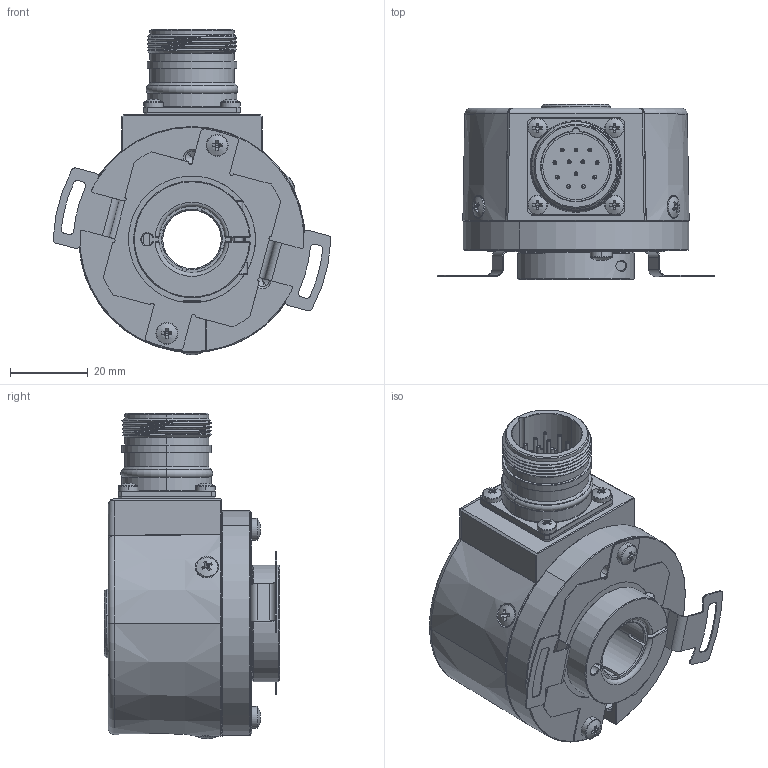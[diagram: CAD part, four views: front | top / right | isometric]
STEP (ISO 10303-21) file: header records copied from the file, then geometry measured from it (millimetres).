
FILE_DESCRIPTION (( 'STEP AP214' ), '1' );
FILE_NAME ('BSP1M8x5x.STEP', '2024-07-03T07:35:40', ( '' ), ( '' ), 'SwSTEP 2.0', 'SolidWorks 2019', '' );
FILE_SCHEMA (( 'AUTOMOTIVE_DESIGN' ));
Length unit declared in the file: millimetre
Products named in the file (1): BSP1M8x5x
Bounding box: 71.33 x 45 x 83.66 mm (x, y, z)
Volume: 61881.8 mm3; surface area: 38129.5 mm2
Topology: 1 solids, 25 shells, 1419 faces, 3515 edges, 2156 vertices
Faces by surface type: plane 686, cylinder 338, cone 236, bspline 82, torus 77
Entity records: 64555 total; most frequent: CARTESIAN_POINT 16402, ORIENTED_EDGE 6958, DIRECTION 6756, EDGE_CURVE 3479, AXIS2_PLACEMENT_3D 2685, VERTEX_POINT 2156, EDGE_LOOP 1531, UNCERTAINTY_MEASURE_WITH_UNIT 1422
